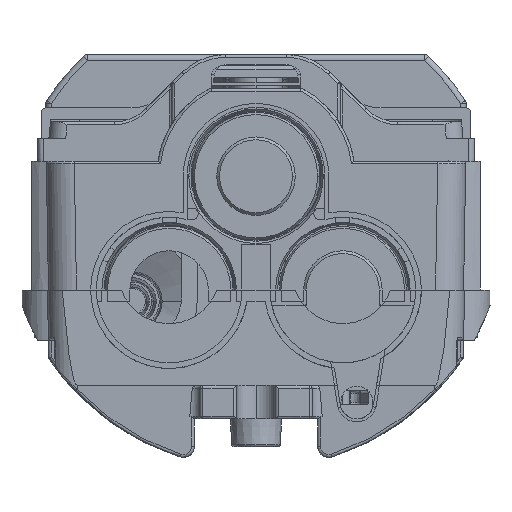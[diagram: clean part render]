
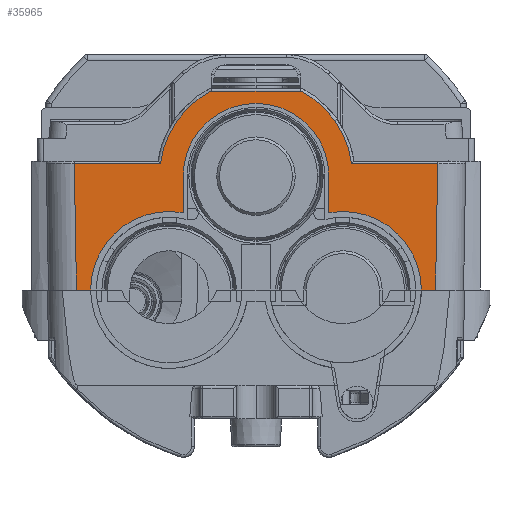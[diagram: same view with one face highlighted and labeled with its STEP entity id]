
A CAD part, left-side view. The second image highlights one B-rep face of the part: STEP entity #35965.
In plain terms, the highlighted planar face has unit normal (-1, 0, 0).
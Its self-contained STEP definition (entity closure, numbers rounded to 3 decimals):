
#189 = DIRECTION ( 'NONE',  ( -1., 0., 0. ) ) ;
#397 = DIRECTION ( 'NONE',  ( 0., -0.017, 1. ) ) ;
#445 = CARTESIAN_POINT ( 'NONE',  ( -234.5, -32.74, 74.782 ) ) ;
#656 = DIRECTION ( 'NONE',  ( 0., -1., 0. ) ) ;
#903 = CARTESIAN_POINT ( 'NONE',  ( -234.5, 37.029, 69.5 ) ) ;
#1009 = DIRECTION ( 'NONE',  ( 0., 0., -1. ) ) ;
#1617 = EDGE_CURVE ( 'NONE', #54622, #30860, #9841, .T. ) ;
#1880 = VECTOR ( 'NONE', #5122, 1000. ) ;
#2642 = VERTEX_POINT ( 'NONE', #54869 ) ;
#3358 = EDGE_CURVE ( 'NONE', #44087, #53740, #26932, .T. ) ;
#5122 = DIRECTION ( 'NONE',  ( 0., 1., 0. ) ) ;
#5639 = AXIS2_PLACEMENT_3D ( 'NONE', #41010, #15600, #45344 ) ;
#5782 = FACE_OUTER_BOUND ( 'NONE', #39678, .T. ) ;
#7733 = CARTESIAN_POINT ( 'NONE',  ( -234.5, 32.421, 56.5 ) ) ;
#8606 = LINE ( 'NONE', #18893, #19758 ) ;
#9219 = CARTESIAN_POINT ( 'NONE',  ( -234.5, 13., 54.3 ) ) ;
#9607 = ORIENTED_EDGE ( 'NONE', *, *, #34452, .F. ) ;
#9800 = ORIENTED_EDGE ( 'NONE', *, *, #18458, .T. ) ;
#9841 = LINE ( 'NONE', #445, #43616 ) ;
#9929 = CARTESIAN_POINT ( 'NONE',  ( -234.5, -32.421, 56.5 ) ) ;
#9993 = VECTOR ( 'NONE', #47858, 1000. ) ;
#10725 = EDGE_CURVE ( 'NONE', #40898, #42787, #44766, .T. ) ;
#11211 = DIRECTION ( 'NONE',  ( -1., 0., 0. ) ) ;
#11420 = AXIS2_PLACEMENT_3D ( 'NONE', #46392, #20893, #50738 ) ;
#11444 = CARTESIAN_POINT ( 'NONE',  ( -234.5, -17.059, 56.5 ) ) ;
#12625 = CIRCLE ( 'NONE', #5639, 17.2 ) ;
#13193 = VERTEX_POINT ( 'NONE', #41633 ) ;
#13904 = LINE ( 'NONE', #41842, #35122 ) ;
#14006 = LINE ( 'NONE', #19181, #35220 ) ;
#14379 = LINE ( 'NONE', #49968, #35613 ) ;
#15600 = DIRECTION ( 'NONE',  ( -1., 0., 0. ) ) ;
#15623 = CIRCLE ( 'NONE', #51915, 13. ) ;
#16362 = VECTOR ( 'NONE', #19887, 1000. ) ;
#16626 = PLANE ( 'NONE',  #11420 ) ;
#17690 = ORIENTED_EDGE ( 'NONE', *, *, #28735, .F. ) ;
#17715 = LINE ( 'NONE', #45321, #16362 ) ;
#18458 = EDGE_CURVE ( 'NONE', #27251, #54622, #17715, .T. ) ;
#18893 = CARTESIAN_POINT ( 'NONE',  ( -234.5, 37.029, 56.5 ) ) ;
#19181 = CARTESIAN_POINT ( 'NONE',  ( -234.5, 37.029, 56.5 ) ) ;
#19463 = AXIS2_PLACEMENT_3D ( 'NONE', #51764, #26163, #1009 ) ;
#19758 = VECTOR ( 'NONE', #48677, 1000. ) ;
#19887 = DIRECTION ( 'NONE',  ( 0., -1., 0. ) ) ;
#20230 = EDGE_CURVE ( 'NONE', #53740, #52120, #15623, .T. ) ;
#20735 = EDGE_CURVE ( 'NONE', #52639, #40898, #35490, .T. ) ;
#20893 = DIRECTION ( 'NONE',  ( 1., 0., 0. ) ) ;
#21682 = CIRCLE ( 'NONE', #26220, 14. ) ;
#22202 = CARTESIAN_POINT ( 'NONE',  ( -234.5, -8.05, 69.5 ) ) ;
#22359 = ORIENTED_EDGE ( 'NONE', *, *, #51663, .T. ) ;
#22849 = CARTESIAN_POINT ( 'NONE',  ( -234.5, -13., 47.775 ) ) ;
#23247 = CARTESIAN_POINT ( 'NONE',  ( -234.5, -13., 54.3 ) ) ;
#23441 = DIRECTION ( 'NONE',  ( 0., 1., 0. ) ) ;
#23724 = CARTESIAN_POINT ( 'NONE',  ( -234.5, 8.05, 69.5 ) ) ;
#24234 = DIRECTION ( 'NONE',  ( 0., 0., 1. ) ) ;
#25385 = CARTESIAN_POINT ( 'NONE',  ( -234.5, -15.5, 34. ) ) ;
#25845 = DIRECTION ( 'NONE',  ( -1., 0., 0. ) ) ;
#26163 = DIRECTION ( 'NONE',  ( -1., 0., 0. ) ) ;
#26220 = AXIS2_PLACEMENT_3D ( 'NONE', #51416, #25845, #656 ) ;
#26811 = ORIENTED_EDGE ( 'NONE', *, *, #27445, .T. ) ;
#26932 = LINE ( 'NONE', #36813, #40844 ) ;
#27251 = VERTEX_POINT ( 'NONE', #38109 ) ;
#27445 = EDGE_CURVE ( 'NONE', #42787, #44198, #14006, .T. ) ;
#28603 = EDGE_CURVE ( 'NONE', #44198, #52443, #13904, .T. ) ;
#28664 = DIRECTION ( 'NONE',  ( 0., -1., 0. ) ) ;
#28735 = EDGE_CURVE ( 'NONE', #52120, #2642, #42434, .T. ) ;
#29636 = DIRECTION ( 'NONE',  ( 0., -1., 0. ) ) ;
#30860 = VERTEX_POINT ( 'NONE', #9929 ) ;
#31489 = ORIENTED_EDGE ( 'NONE', *, *, #28603, .T. ) ;
#31961 = ORIENTED_EDGE ( 'NONE', *, *, #3358, .F. ) ;
#32487 = AXIS2_PLACEMENT_3D ( 'NONE', #25385, #189, #29636 ) ;
#32788 = CARTESIAN_POINT ( 'NONE',  ( -234.5, 32.028, 34. ) ) ;
#32991 = ORIENTED_EDGE ( 'NONE', *, *, #39366, .T. ) ;
#34452 = EDGE_CURVE ( 'NONE', #2642, #13193, #21682, .T. ) ;
#35122 = VECTOR ( 'NONE', #46175, 1000. ) ;
#35220 = VECTOR ( 'NONE', #23441, 1000. ) ;
#35348 = ORIENTED_EDGE ( 'NONE', *, *, #1617, .T. ) ;
#35490 = LINE ( 'NONE', #903, #1880 ) ;
#35613 = VECTOR ( 'NONE', #28664, 1000. ) ;
#35965 = ADVANCED_FACE ( 'NONE', ( #5782 ), #16626, .F. ) ;
#36521 = CARTESIAN_POINT ( 'NONE',  ( -234.5, 0., 54.3 ) ) ;
#36813 = CARTESIAN_POINT ( 'NONE',  ( -234.5, -13., 54.3 ) ) ;
#37545 = ORIENTED_EDGE ( 'NONE', *, *, #20735, .T. ) ;
#38109 = CARTESIAN_POINT ( 'NONE',  ( -234.5, -29.5, 34. ) ) ;
#39193 = ORIENTED_EDGE ( 'NONE', *, *, #50924, .T. ) ;
#39198 = CARTESIAN_POINT ( 'NONE',  ( -234.5, 13., 54.3 ) ) ;
#39366 = EDGE_CURVE ( 'NONE', #44912, #52639, #12625, .T. ) ;
#39664 = CIRCLE ( 'NONE', #32487, 14. ) ;
#39678 = EDGE_LOOP ( 'NONE', ( #51031, #26811, #31489, #22359, #9607, #17690, #42691, #31961, #45648, #9800, #35348, #39193, #32991, #37545 ) ) ;
#40770 = DIRECTION ( 'NONE',  ( 0., -1., 0. ) ) ;
#40844 = VECTOR ( 'NONE', #24234, 1000. ) ;
#40898 = VERTEX_POINT ( 'NONE', #23724 ) ;
#41010 = CARTESIAN_POINT ( 'NONE',  ( -234.5, 0., 54.3 ) ) ;
#41152 = EDGE_CURVE ( 'NONE', #27251, #44087, #39664, .T. ) ;
#41633 = CARTESIAN_POINT ( 'NONE',  ( -234.5, 29.5, 34. ) ) ;
#41842 = CARTESIAN_POINT ( 'NONE',  ( -234.5, 32.762, 76.074 ) ) ;
#41988 = CARTESIAN_POINT ( 'NONE',  ( -234.5, -32.028, 34. ) ) ;
#42434 = LINE ( 'NONE', #39198, #9993 ) ;
#42691 = ORIENTED_EDGE ( 'NONE', *, *, #20230, .F. ) ;
#42787 = VERTEX_POINT ( 'NONE', #49788 ) ;
#43616 = VECTOR ( 'NONE', #397, 1000. ) ;
#44087 = VERTEX_POINT ( 'NONE', #22849 ) ;
#44198 = VERTEX_POINT ( 'NONE', #7733 ) ;
#44766 = CIRCLE ( 'NONE', #19463, 17.2 ) ;
#44912 = VERTEX_POINT ( 'NONE', #11444 ) ;
#45321 = CARTESIAN_POINT ( 'NONE',  ( -234.5, 37.029, 34. ) ) ;
#45344 = DIRECTION ( 'NONE',  ( 0., 0., -1. ) ) ;
#45648 = ORIENTED_EDGE ( 'NONE', *, *, #41152, .F. ) ;
#46175 = DIRECTION ( 'NONE',  ( 0., -0.017, -1. ) ) ;
#46392 = CARTESIAN_POINT ( 'NONE',  ( -234.5, 37.029, 76. ) ) ;
#47858 = DIRECTION ( 'NONE',  ( 0., 0., -1. ) ) ;
#48677 = DIRECTION ( 'NONE',  ( 0., 1., 0. ) ) ;
#49788 = CARTESIAN_POINT ( 'NONE',  ( -234.5, 17.059, 56.5 ) ) ;
#49968 = CARTESIAN_POINT ( 'NONE',  ( -234.5, 37.029, 34. ) ) ;
#50738 = DIRECTION ( 'NONE',  ( 0., 0., -1. ) ) ;
#50924 = EDGE_CURVE ( 'NONE', #30860, #44912, #8606, .T. ) ;
#51031 = ORIENTED_EDGE ( 'NONE', *, *, #10725, .T. ) ;
#51416 = CARTESIAN_POINT ( 'NONE',  ( -234.5, 15.5, 34. ) ) ;
#51663 = EDGE_CURVE ( 'NONE', #52443, #13193, #14379, .T. ) ;
#51764 = CARTESIAN_POINT ( 'NONE',  ( -234.5, 0., 54.3 ) ) ;
#51915 = AXIS2_PLACEMENT_3D ( 'NONE', #36521, #11211, #40770 ) ;
#52120 = VERTEX_POINT ( 'NONE', #9219 ) ;
#52443 = VERTEX_POINT ( 'NONE', #32788 ) ;
#52639 = VERTEX_POINT ( 'NONE', #22202 ) ;
#53740 = VERTEX_POINT ( 'NONE', #23247 ) ;
#54622 = VERTEX_POINT ( 'NONE', #41988 ) ;
#54869 = CARTESIAN_POINT ( 'NONE',  ( -234.5, 13., 47.775 ) ) ;
